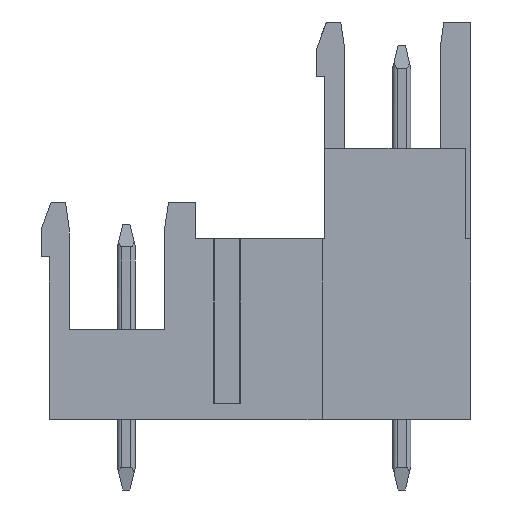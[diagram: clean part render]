
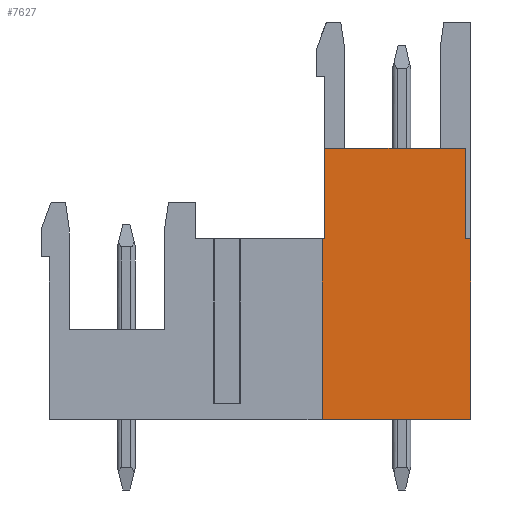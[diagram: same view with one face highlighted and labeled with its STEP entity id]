
A CAD part, left-side view. The second image highlights one B-rep face of the part: STEP entity #7627.
In plain terms, the highlighted planar face has unit normal (-1, 0, 0).
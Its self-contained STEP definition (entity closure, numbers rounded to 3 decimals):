
#707=DIRECTION('',(0.,-1.,0.));
#708=VECTOR('',#707,0.14);
#709=CARTESIAN_POINT('',(6.72,8.24,-12.));
#710=LINE('',#709,#708);
#711=DIRECTION('',(0.,0.,-1.));
#712=VECTOR('',#711,5.);
#713=CARTESIAN_POINT('',(6.72,8.1,-7.));
#714=LINE('',#713,#712);
#715=DIRECTION('',(0.,1.,0.));
#716=VECTOR('',#715,7.8);
#717=CARTESIAN_POINT('',(6.72,0.3,-7.));
#718=LINE('',#717,#716);
#719=DIRECTION('',(0.,0.,1.));
#720=VECTOR('',#719,5.);
#721=CARTESIAN_POINT('',(6.72,0.3,-12.));
#722=LINE('',#721,#720);
#723=DIRECTION('',(0.,-1.,0.));
#724=VECTOR('',#723,0.3);
#725=CARTESIAN_POINT('',(6.72,0.3,-12.));
#726=LINE('',#725,#724);
#727=DIRECTION('',(0.,0.,-1.));
#728=VECTOR('',#727,10.);
#729=CARTESIAN_POINT('',(6.72,0.,-12.));
#730=LINE('',#729,#728);
#783=DIRECTION('',(0.,0.,-1.));
#784=VECTOR('',#783,10.);
#785=CARTESIAN_POINT('',(6.72,8.24,-12.));
#786=LINE('',#785,#784);
#855=DIRECTION('',(0.,-1.,0.));
#856=VECTOR('',#855,8.24);
#857=CARTESIAN_POINT('',(6.72,8.24,-22.));
#858=LINE('',#857,#856);
#5271=CARTESIAN_POINT('',(6.72,0.,-12.));
#5272=VERTEX_POINT('',#5271);
#5274=CARTESIAN_POINT('',(6.72,8.24,-12.));
#5276=VERTEX_POINT('',#5274);
#5327=CARTESIAN_POINT('',(6.72,8.24,-22.));
#5328=VERTEX_POINT('',#5327);
#5375=CARTESIAN_POINT('',(6.72,0.,-22.));
#5376=VERTEX_POINT('',#5375);
#6529=CARTESIAN_POINT('',(6.72,0.3,-7.));
#6530=CARTESIAN_POINT('',(6.72,8.1,-7.));
#6531=VERTEX_POINT('',#6529);
#6532=VERTEX_POINT('',#6530);
#6540=CARTESIAN_POINT('',(6.72,8.1,-12.));
#6542=VERTEX_POINT('',#6540);
#6543=CARTESIAN_POINT('',(6.72,0.3,-12.));
#6544=VERTEX_POINT('',#6543);
#7608=CARTESIAN_POINT('',(6.72,0.,-22.));
#7609=DIRECTION('',(-1.,0.,0.));
#7610=DIRECTION('',(0.,1.,0.));
#7611=AXIS2_PLACEMENT_3D('',#7608,#7609,#7610);
#7612=PLANE('',#7611);
#7614=ORIENTED_EDGE('',*,*,#7613,.T.);
#7615=ORIENTED_EDGE('',*,*,#7294,.F.);
#7616=ORIENTED_EDGE('',*,*,#7530,.F.);
#7617=ORIENTED_EDGE('',*,*,#6956,.F.);
#7619=ORIENTED_EDGE('',*,*,#7618,.T.);
#7620=ORIENTED_EDGE('',*,*,#7080,.T.);
#7622=ORIENTED_EDGE('',*,*,#7621,.F.);
#7624=ORIENTED_EDGE('',*,*,#7623,.F.);
#7625=EDGE_LOOP('',(#7614,#7615,#7616,#7617,#7619,#7620,#7622,#7624));
#7626=FACE_OUTER_BOUND('',#7625,.F.);
#7627=ADVANCED_FACE('',(#7626),#7612,.T.);
#6956=EDGE_CURVE('',#6544,#6531,#722,.T.);
#7080=EDGE_CURVE('',#5272,#5376,#730,.T.);
#7294=EDGE_CURVE('',#6532,#6542,#714,.T.);
#7530=EDGE_CURVE('',#6531,#6532,#718,.T.);
#7613=EDGE_CURVE('',#5276,#6542,#710,.T.);
#7618=EDGE_CURVE('',#6544,#5272,#726,.T.);
#7621=EDGE_CURVE('',#5328,#5376,#858,.T.);
#7623=EDGE_CURVE('',#5276,#5328,#786,.T.);
